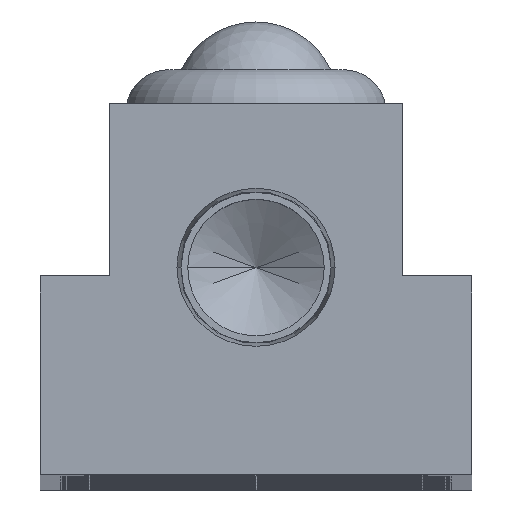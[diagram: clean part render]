
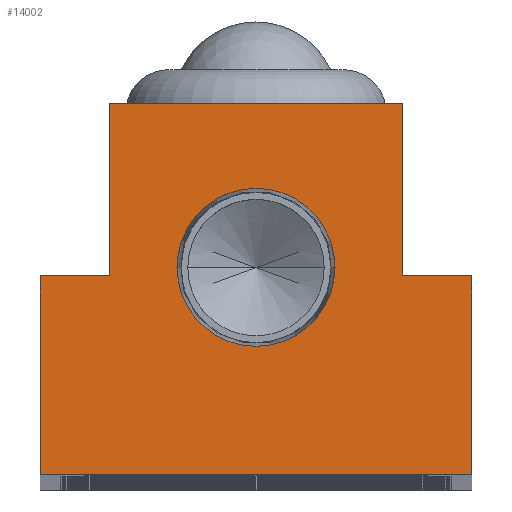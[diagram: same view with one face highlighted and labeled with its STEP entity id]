
A CAD part, top view. The second image highlights one B-rep face of the part: STEP entity #14002.
In plain terms, the highlighted planar face has unit normal (0, 0, 1).
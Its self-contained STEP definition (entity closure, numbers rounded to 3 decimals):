
#35 = CARTESIAN_POINT ( 'NONE',  ( 0., 12., 0. ) ) ;
#179 = FACE_BOUND ( 'NONE', #4831, .T. ) ;
#258 = EDGE_CURVE ( 'NONE', #14838, #4672, #12254, .T. ) ;
#465 = CIRCLE ( 'NONE', #13936, 4.574 ) ;
#513 = PLANE ( 'NONE',  #16096 ) ;
#670 = CARTESIAN_POINT ( 'NONE',  ( 4.574, 12., 0. ) ) ;
#679 = LINE ( 'NONE', #1067, #16970 ) ;
#1067 = CARTESIAN_POINT ( 'NONE',  ( -12.5, 0., 0. ) ) ;
#1229 = ORIENTED_EDGE ( 'NONE', *, *, #258, .F. ) ;
#1363 = DIRECTION ( 'NONE',  ( 1., 0., 0. ) ) ;
#1512 = ORIENTED_EDGE ( 'NONE', *, *, #12157, .T. ) ;
#1581 = CARTESIAN_POINT ( 'NONE',  ( 0., 12., 0. ) ) ;
#1786 = DIRECTION ( 'NONE',  ( 0., -1., 0. ) ) ;
#1846 = CARTESIAN_POINT ( 'NONE',  ( 8.5, 11.5, 0. ) ) ;
#1850 = DIRECTION ( 'NONE',  ( 1., 0., 0. ) ) ;
#1869 = VECTOR ( 'NONE', #6031, 1000. ) ;
#2004 = CARTESIAN_POINT ( 'NONE',  ( 8.5, 21.5, 0. ) ) ;
#2050 = VECTOR ( 'NONE', #16728, 1000. ) ;
#2269 = LINE ( 'NONE', #12639, #8838 ) ;
#2276 = ORIENTED_EDGE ( 'NONE', *, *, #11636, .T. ) ;
#2386 = CARTESIAN_POINT ( 'NONE',  ( 12.5, 11.5, 0. ) ) ;
#2700 = VECTOR ( 'NONE', #5812, 1000. ) ;
#2819 = EDGE_LOOP ( 'NONE', ( #16117, #14995, #6432, #1512, #14441, #12115, #2276, #9814 ) ) ;
#2887 = DIRECTION ( 'NONE',  ( 1., 0., 0. ) ) ;
#2914 = CARTESIAN_POINT ( 'NONE',  ( -12.5, 11.5, 0. ) ) ;
#2922 = VERTEX_POINT ( 'NONE', #13152 ) ;
#3668 = VECTOR ( 'NONE', #7113, 1000. ) ;
#3825 = EDGE_CURVE ( 'NONE', #16666, #6073, #7166, .T. ) ;
#4672 = VERTEX_POINT ( 'NONE', #8412 ) ;
#4825 = CARTESIAN_POINT ( 'NONE',  ( 12.5, 0., 0. ) ) ;
#4831 = EDGE_LOOP ( 'NONE', ( #1229, #17057 ) ) ;
#5459 = LINE ( 'NONE', #9676, #8128 ) ;
#5527 = LINE ( 'NONE', #4825, #2050 ) ;
#5812 = DIRECTION ( 'NONE',  ( 0., -1., 0. ) ) ;
#6031 = DIRECTION ( 'NONE',  ( -1., 0., 0. ) ) ;
#6073 = VERTEX_POINT ( 'NONE', #2004 ) ;
#6179 = LINE ( 'NONE', #8554, #1869 ) ;
#6432 = ORIENTED_EDGE ( 'NONE', *, *, #3825, .T. ) ;
#6449 = VERTEX_POINT ( 'NONE', #9054 ) ;
#7113 = DIRECTION ( 'NONE',  ( 0., 1., 0. ) ) ;
#7166 = LINE ( 'NONE', #1846, #3668 ) ;
#7905 = AXIS2_PLACEMENT_3D ( 'NONE', #35, #9227, #1363 ) ;
#7913 = VECTOR ( 'NONE', #12971, 1000. ) ;
#8128 = VECTOR ( 'NONE', #1786, 1000. ) ;
#8168 = CARTESIAN_POINT ( 'NONE',  ( 12.5, 11.5, 0. ) ) ;
#8412 = CARTESIAN_POINT ( 'NONE',  ( -4.574, 12., 0. ) ) ;
#8554 = CARTESIAN_POINT ( 'NONE',  ( -8.5, 11.5, 0. ) ) ;
#8838 = VECTOR ( 'NONE', #13966, 1000. ) ;
#9054 = CARTESIAN_POINT ( 'NONE',  ( -8.5, 21.5, 0. ) ) ;
#9204 = CARTESIAN_POINT ( 'NONE',  ( 8.5, 11.5, 0. ) ) ;
#9227 = DIRECTION ( 'NONE',  ( 0., 0., 1. ) ) ;
#9676 = CARTESIAN_POINT ( 'NONE',  ( -8.5, 21.5, 0. ) ) ;
#9808 = CARTESIAN_POINT ( 'NONE',  ( -12.5, 11.5, 0. ) ) ;
#9814 = ORIENTED_EDGE ( 'NONE', *, *, #15022, .T. ) ;
#10297 = FACE_OUTER_BOUND ( 'NONE', #2819, .T. ) ;
#10298 = DIRECTION ( 'NONE',  ( 1., 0., 0. ) ) ;
#10532 = EDGE_CURVE ( 'NONE', #6449, #15008, #5459, .T. ) ;
#10796 = DIRECTION ( 'NONE',  ( 0., 0., 1. ) ) ;
#10845 = EDGE_CURVE ( 'NONE', #13354, #16666, #14973, .T. ) ;
#11636 = EDGE_CURVE ( 'NONE', #12536, #2922, #13248, .T. ) ;
#12115 = ORIENTED_EDGE ( 'NONE', *, *, #12162, .T. ) ;
#12157 = EDGE_CURVE ( 'NONE', #6073, #6449, #2269, .T. ) ;
#12162 = EDGE_CURVE ( 'NONE', #15008, #12536, #6179, .T. ) ;
#12254 = CIRCLE ( 'NONE', #7905, 4.574 ) ;
#12536 = VERTEX_POINT ( 'NONE', #2914 ) ;
#12639 = CARTESIAN_POINT ( 'NONE',  ( 8.5, 21.5, 0. ) ) ;
#12971 = DIRECTION ( 'NONE',  ( -1., 0., 0. ) ) ;
#13152 = CARTESIAN_POINT ( 'NONE',  ( -12.5, 0., 0. ) ) ;
#13235 = CARTESIAN_POINT ( 'NONE',  ( 12.5, 0., 0. ) ) ;
#13248 = LINE ( 'NONE', #9808, #2700 ) ;
#13354 = VERTEX_POINT ( 'NONE', #8168 ) ;
#13641 = EDGE_CURVE ( 'NONE', #16672, #13354, #5527, .T. ) ;
#13684 = DIRECTION ( 'NONE',  ( 0., 0., 1. ) ) ;
#13936 = AXIS2_PLACEMENT_3D ( 'NONE', #1581, #10796, #2887 ) ;
#13966 = DIRECTION ( 'NONE',  ( -1., 0., 0. ) ) ;
#14002 = ADVANCED_FACE ( 'NONE', ( #179, #10297 ), #513, .T. ) ;
#14441 = ORIENTED_EDGE ( 'NONE', *, *, #10532, .T. ) ;
#14838 = VERTEX_POINT ( 'NONE', #670 ) ;
#14973 = LINE ( 'NONE', #2386, #7913 ) ;
#14995 = ORIENTED_EDGE ( 'NONE', *, *, #10845, .T. ) ;
#15008 = VERTEX_POINT ( 'NONE', #16796 ) ;
#15022 = EDGE_CURVE ( 'NONE', #2922, #16672, #679, .T. ) ;
#15265 = EDGE_CURVE ( 'NONE', #4672, #14838, #465, .T. ) ;
#16096 = AXIS2_PLACEMENT_3D ( 'NONE', #16315, #13684, #1850 ) ;
#16117 = ORIENTED_EDGE ( 'NONE', *, *, #13641, .T. ) ;
#16315 = CARTESIAN_POINT ( 'NONE',  ( 0., 0., 0. ) ) ;
#16666 = VERTEX_POINT ( 'NONE', #9204 ) ;
#16672 = VERTEX_POINT ( 'NONE', #13235 ) ;
#16728 = DIRECTION ( 'NONE',  ( 0., 1., 0. ) ) ;
#16796 = CARTESIAN_POINT ( 'NONE',  ( -8.5, 11.5, 0. ) ) ;
#16970 = VECTOR ( 'NONE', #10298, 1000. ) ;
#17057 = ORIENTED_EDGE ( 'NONE', *, *, #15265, .F. ) ;
